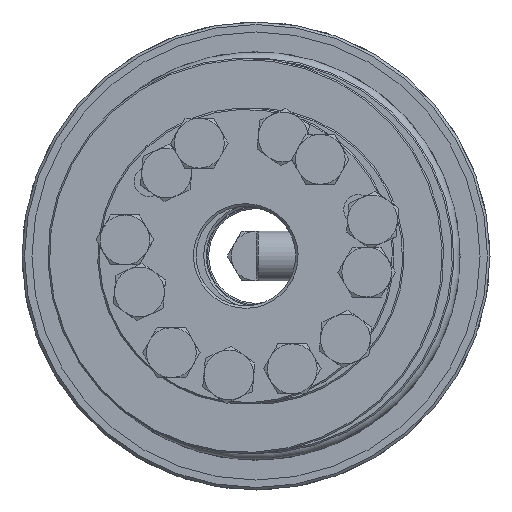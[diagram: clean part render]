
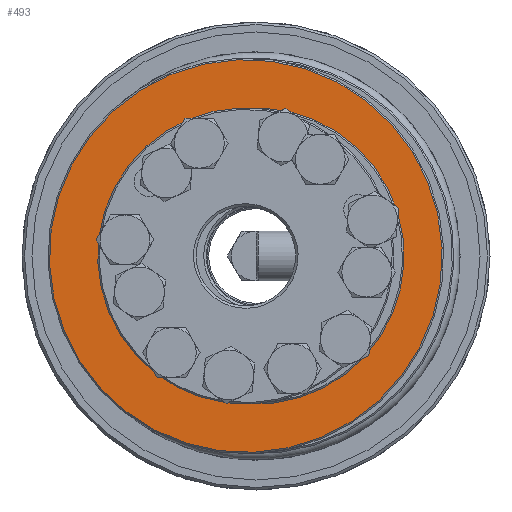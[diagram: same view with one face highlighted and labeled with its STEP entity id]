
A CAD part, left-side view. The second image highlights one B-rep face of the part: STEP entity #493.
In plain terms, the highlighted planar face has unit normal (-1, 0, 0) as drawn and (1, 0, 0) by its records, which use the part's own axes.
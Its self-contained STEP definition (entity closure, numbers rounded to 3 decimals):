
#493 = ADVANCED_FACE( 'NONE', ( #830, #831, #832, #833, #834, #835, #836, #837 ), #838, .F. );
#830 = FACE_OUTER_BOUND( '', #1422, .T. );
#831 = FACE_BOUND( '', #1423, .T. );
#832 = FACE_BOUND( '', #1424, .T. );
#833 = FACE_BOUND( '', #1425, .T. );
#834 = FACE_BOUND( '', #1426, .T. );
#835 = FACE_BOUND( '', #1427, .T. );
#836 = FACE_BOUND( '', #1428, .T. );
#837 = FACE_BOUND( '', #1429, .T. );
#838 = PLANE( '', #1430 );
#1422 = EDGE_LOOP( '', ( #2215 ) );
#1423 = EDGE_LOOP( '', ( #2216 ) );
#1424 = EDGE_LOOP( '', ( #2217 ) );
#1425 = EDGE_LOOP( '', ( #2218 ) );
#1426 = EDGE_LOOP( '', ( #2219 ) );
#1427 = EDGE_LOOP( '', ( #2220 ) );
#1428 = EDGE_LOOP( '', ( #2221 ) );
#1429 = EDGE_LOOP( '', ( #2222 ) );
#1430 = AXIS2_PLACEMENT_3D( '', #2223, #2224, #2225 );
#2215 = ORIENTED_EDGE( '', *, *, #3162, .T. );
#2216 = ORIENTED_EDGE( '', *, *, #3180, .T. );
#2217 = ORIENTED_EDGE( '', *, *, #3174, .F. );
#2218 = ORIENTED_EDGE( '', *, *, #3181, .F. );
#2219 = ORIENTED_EDGE( '', *, *, #3173, .F. );
#2220 = ORIENTED_EDGE( '', *, *, #3172, .F. );
#2221 = ORIENTED_EDGE( '', *, *, #3171, .F. );
#2222 = ORIENTED_EDGE( '', *, *, #3182, .F. );
#2223 = CARTESIAN_POINT( '', ( 20., 39.75, 0. ) );
#2224 = DIRECTION( '', ( -1., 0., 0. ) );
#2225 = DIRECTION( '', ( 0., 0., 1. ) );
#3162 = EDGE_CURVE( 'NONE', #3530, #3530, #3531, .T. );
#3171 = EDGE_CURVE( 'NONE', #3548, #3548, #3549, .T. );
#3172 = EDGE_CURVE( 'NONE', #3550, #3550, #3551, .T. );
#3173 = EDGE_CURVE( 'NONE', #3552, #3552, #3553, .T. );
#3174 = EDGE_CURVE( 'NONE', #3554, #3554, #3555, .T. );
#3180 = EDGE_CURVE( 'NONE', #3566, #3566, #3567, .T. );
#3181 = EDGE_CURVE( 'NONE', #3568, #3568, #3569, .T. );
#3182 = EDGE_CURVE( 'NONE', #3570, #3570, #3571, .T. );
#3530 = VERTEX_POINT( '', #4132 );
#3531 = CIRCLE( '', #4133, 39.45 );
#3548 = VERTEX_POINT( '', #4150 );
#3549 = CIRCLE( '', #4151, 3. );
#3550 = VERTEX_POINT( '', #4152 );
#3551 = CIRCLE( '', #4153, 3. );
#3552 = VERTEX_POINT( '', #4154 );
#3553 = CIRCLE( '', #4155, 3. );
#3554 = VERTEX_POINT( '', #4156 );
#3555 = CIRCLE( '', #4157, 3. );
#3566 = VERTEX_POINT( '', #4168 );
#3567 = CIRCLE( '', #4169, 20.835 );
#3568 = VERTEX_POINT( '', #4170 );
#3569 = CIRCLE( '', #4171, 3. );
#3570 = VERTEX_POINT( '', #4172 );
#3571 = CIRCLE( '', #4173, 3. );
#4132 = CARTESIAN_POINT( '', ( 20., 0., 39.45 ) );
#4133 = AXIS2_PLACEMENT_3D( '', #5249, #5250, #5251 );
#4150 = CARTESIAN_POINT( '', ( 20., -24.5, -3. ) );
#4151 = AXIS2_PLACEMENT_3D( '', #5276, #5277, #5278 );
#4152 = CARTESIAN_POINT( '', ( 20., -12.25, -24.218 ) );
#4153 = AXIS2_PLACEMENT_3D( '', #5279, #5280, #5281 );
#4154 = CARTESIAN_POINT( '', ( 20., 12.25, -24.218 ) );
#4155 = AXIS2_PLACEMENT_3D( '', #5282, #5283, #5284 );
#4156 = CARTESIAN_POINT( '', ( 20., -12.25, 18.218 ) );
#4157 = AXIS2_PLACEMENT_3D( '', #5285, #5286, #5287 );
#4168 = CARTESIAN_POINT( '', ( 20., 0., 20.835 ) );
#4169 = AXIS2_PLACEMENT_3D( '', #5303, #5304, #5305 );
#4170 = CARTESIAN_POINT( '', ( 20., 24.5, -3. ) );
#4171 = AXIS2_PLACEMENT_3D( '', #5306, #5307, #5308 );
#4172 = CARTESIAN_POINT( '', ( 20., 12.25, 18.218 ) );
#4173 = AXIS2_PLACEMENT_3D( '', #5309, #5310, #5311 );
#5249 = CARTESIAN_POINT( '', ( 20., 0., 0. ) );
#5250 = DIRECTION( '', ( 1., 0., 0. ) );
#5251 = DIRECTION( '', ( 0., 0., 1. ) );
#5276 = CARTESIAN_POINT( '', ( 20., -24.5, 0. ) );
#5277 = DIRECTION( '', ( 1., 0., 0. ) );
#5278 = DIRECTION( '', ( 0., 0., -1. ) );
#5279 = CARTESIAN_POINT( '', ( 20., -12.25, -21.218 ) );
#5280 = DIRECTION( '', ( 1., 0., 0. ) );
#5281 = DIRECTION( '', ( 0., 0., -1. ) );
#5282 = CARTESIAN_POINT( '', ( 20., 12.25, -21.218 ) );
#5283 = DIRECTION( '', ( 1., 0., 0. ) );
#5284 = DIRECTION( '', ( 0., 0., -1. ) );
#5285 = CARTESIAN_POINT( '', ( 20., -12.25, 21.218 ) );
#5286 = DIRECTION( '', ( 1., 0., 0. ) );
#5287 = DIRECTION( '', ( 0., 0., -1. ) );
#5303 = CARTESIAN_POINT( '', ( 20., 0., 0. ) );
#5304 = DIRECTION( '', ( -1., 0., 0. ) );
#5305 = DIRECTION( '', ( 0., 0., 1. ) );
#5306 = CARTESIAN_POINT( '', ( 20., 24.5, 0. ) );
#5307 = DIRECTION( '', ( 1., 0., 0. ) );
#5308 = DIRECTION( '', ( 0., 0., -1. ) );
#5309 = CARTESIAN_POINT( '', ( 20., 12.25, 21.218 ) );
#5310 = DIRECTION( '', ( 1., 0., 0. ) );
#5311 = DIRECTION( '', ( 0., 0., -1. ) );
